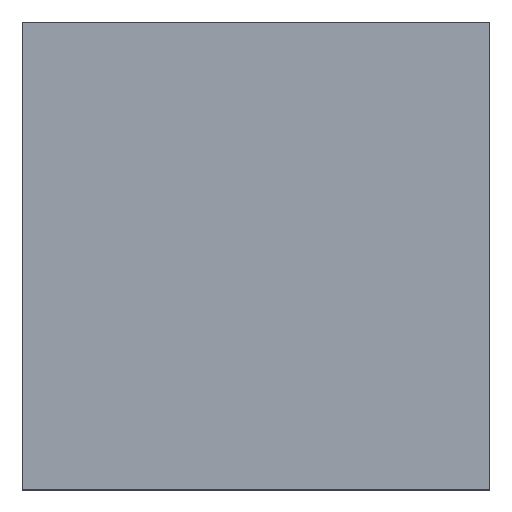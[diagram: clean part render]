
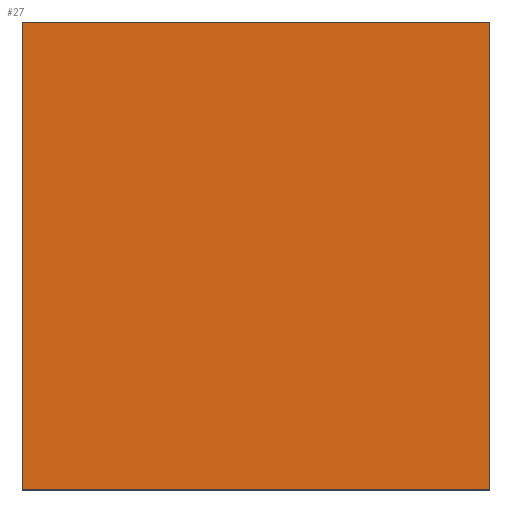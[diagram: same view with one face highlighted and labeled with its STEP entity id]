
A CAD part, top view. The second image highlights one B-rep face of the part: STEP entity #27.
In plain terms, the highlighted planar face has unit normal (0, 0, 1).
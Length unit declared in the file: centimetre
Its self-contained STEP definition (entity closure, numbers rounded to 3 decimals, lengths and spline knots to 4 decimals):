
#1 = DIRECTION ( 'NONE',  ( 1., 0., 0. ) ) ;
#4 = DIRECTION ( 'NONE',  ( 0., -1., 0. ) ) ;
#14 = DIRECTION ( 'NONE',  ( 1., 0., 0. ) ) ;
#15 = EDGE_LOOP ( 'NONE', ( #222, #198, #528, #35 ) ) ;
#27 = ADVANCED_FACE ( 'NONE', ( #625 ), #121, .T. ) ;
#35 = ORIENTED_EDGE ( 'NONE', *, *, #425, .T. ) ;
#46 = CARTESIAN_POINT ( 'NONE',  ( 1000., 1000., 1000. ) ) ;
#53 = LINE ( 'NONE', #509, #290 ) ;
#59 = VECTOR ( 'NONE', #251, 100. ) ;
#62 = CARTESIAN_POINT ( 'NONE',  ( 0., 0., 1000. ) ) ;
#102 = LINE ( 'NONE', #248, #592 ) ;
#108 = DIRECTION ( 'NONE',  ( -1., 0., 0. ) ) ;
#121 = PLANE ( 'NONE',  #299 ) ;
#198 = ORIENTED_EDGE ( 'NONE', *, *, #373, .T. ) ;
#204 = LINE ( 'NONE', #564, #302 ) ;
#222 = ORIENTED_EDGE ( 'NONE', *, *, #436, .T. ) ;
#248 = CARTESIAN_POINT ( 'NONE',  ( 0., 1000., 1000. ) ) ;
#251 = DIRECTION ( 'NONE',  ( 0., 1., 0. ) ) ;
#278 = VERTEX_POINT ( 'NONE', #607 ) ;
#288 = CARTESIAN_POINT ( 'NONE',  ( 0., 1000., 1000. ) ) ;
#290 = VECTOR ( 'NONE', #1, 100. ) ;
#299 = AXIS2_PLACEMENT_3D ( 'NONE', #62, #328, #14 ) ;
#302 = VECTOR ( 'NONE', #4, 100. ) ;
#328 = DIRECTION ( 'NONE',  ( 0., 0., 1. ) ) ;
#330 = CARTESIAN_POINT ( 'NONE',  ( 1000., 1000., 1000. ) ) ;
#337 = VERTEX_POINT ( 'NONE', #643 ) ;
#373 = EDGE_CURVE ( 'NONE', #337, #278, #53, .T. ) ;
#400 = EDGE_CURVE ( 'NONE', #278, #626, #506, .T. ) ;
#425 = EDGE_CURVE ( 'NONE', #626, #653, #102, .T. ) ;
#436 = EDGE_CURVE ( 'NONE', #653, #337, #204, .T. ) ;
#506 = LINE ( 'NONE', #46, #59 ) ;
#509 = CARTESIAN_POINT ( 'NONE',  ( 0., 0., 1000. ) ) ;
#528 = ORIENTED_EDGE ( 'NONE', *, *, #400, .T. ) ;
#564 = CARTESIAN_POINT ( 'NONE',  ( 0., 1000., 1000. ) ) ;
#592 = VECTOR ( 'NONE', #108, 100. ) ;
#607 = CARTESIAN_POINT ( 'NONE',  ( 1000., 0., 1000. ) ) ;
#625 = FACE_OUTER_BOUND ( 'NONE', #15, .T. ) ;
#626 = VERTEX_POINT ( 'NONE', #330 ) ;
#643 = CARTESIAN_POINT ( 'NONE',  ( 0., 0., 1000. ) ) ;
#653 = VERTEX_POINT ( 'NONE', #288 ) ;
